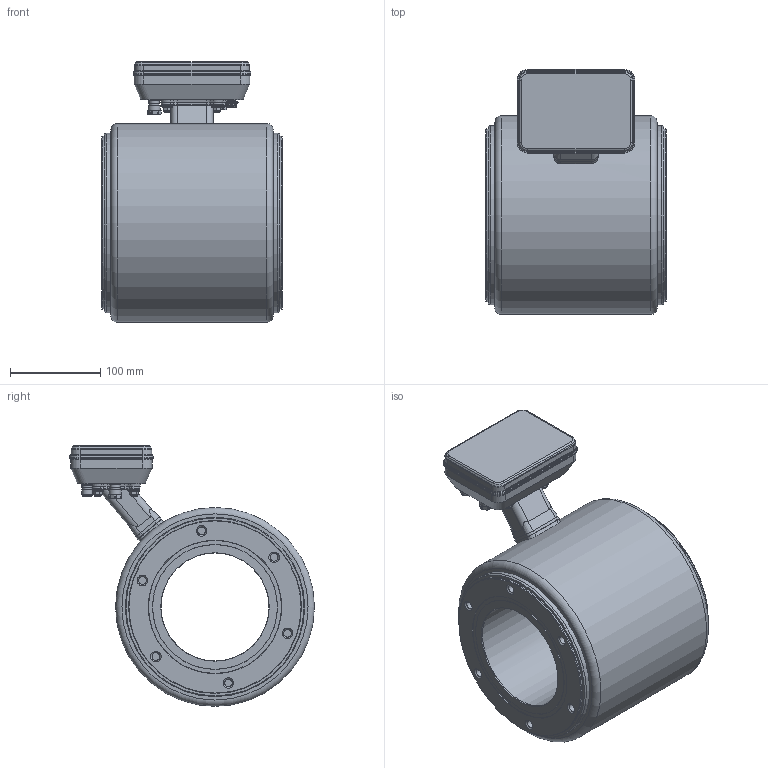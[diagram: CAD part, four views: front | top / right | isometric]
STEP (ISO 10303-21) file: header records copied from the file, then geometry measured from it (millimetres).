
FILE_DESCRIPTION(/* description */ ('STEP AP203'),/* implementation_level */ '2;1');
FILE_NAME(/* name */ 'P_MZ_300_0408',/* time_stamp */ '2025-04-07T13:40:32+02:00',/* author */ ('License CC BY-ND 4.0'),/* organization */ ('CADENAS'),/* preprocessor_version */ 'ST-DEVELOPER v19.3',/* originating_system */ 'PARTsolutions',/* authorisation */ ' ');
FILE_SCHEMA (('CONFIG_CONTROL_DESIGN'));
Length unit declared in the file: millimetre
Products named in the file (3): P_MZ_300_0408; P_MZ_300_0408_P1; P_MZ_300_0407_P2
Assembly tree (2 placements, depth 2):
  P_MZ_300_0408
    P_MZ_300_0408_P1
    P_MZ_300_0407_P2
Bounding box: 200 x 271.03 x 288.63 mm (x, y, z)
Volume: 5747427.3 mm3; surface area: 314715.3 mm2
Topology: 2 solids, 2 shells, 491 faces, 1177 edges, 729 vertices
Faces by surface type: plane 200, cylinder 150, cone 74, torus 58, sphere 8, bspline 1
Full cylindrical faces by diameter (mm): 1.8 x8, 4 x2, 4.1 x4, 5.4 x4, 7.35 x1, 7.7 x4, 8.4 x1, 8.5 x12, 9 x1, 10.6 x1, 10.8 x2, 11.3 x2, 11.8 x4, 12 x4, 13.3 x1, 119.5 x1, 191.5 x2, 198.6 x2, 220.1 x1
Entity records: 13735 total; most frequent: CARTESIAN_POINT 2731, DIRECTION 2381, ORIENTED_EDGE 2052, EDGE_CURVE 1026, AXIS2_PLACEMENT_3D 961, VERTEX_POINT 702, EDGE_LOOP 670, FACE_BOUND 670
